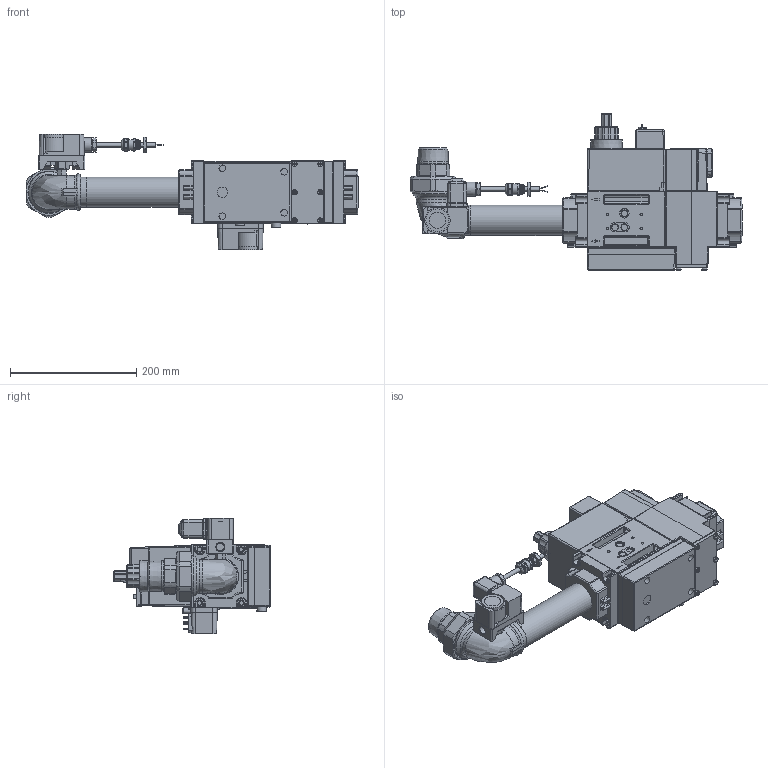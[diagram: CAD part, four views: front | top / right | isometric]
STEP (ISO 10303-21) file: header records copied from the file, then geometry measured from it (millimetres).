
FILE_DESCRIPTION (( 'STEP AP214' ), '1' );
FILE_NAME ('19990749.STEP', '2025-02-14T07:06:25', ( '' ), ( '' ), 'SwSTEP 2.0', 'SolidWorks 2021', '' );
FILE_SCHEMA (( 'AUTOMOTIVE_DESIGN' ));
Length unit declared in the file: millimetre
Products named in the file (1): 19990749
Bounding box: 526.65 x 248 x 183.4 mm (x, y, z)
Surface area: 498542.3 mm2 (no closed solid volume)
Topology: 0 solids, 18 shells, 2607 faces, 6567 edges, 4118 vertices
Faces by surface type: plane 1096, cylinder 716, bspline 471, cone 154, torus 127, sphere 43
Full cylindrical faces by diameter (mm): 0.7 x2, 1 x2, 1.2 x1, 1.5 x2, 1.95 x1, 2 x5, 2.45 x1, 2.5 x7, 3.7 x3, 4 x5, 4.5 x2, 4.8 x1, 6.2 x1, 6.647 x4, 6.75 x2, 6.917 x8, 7 x3, 8 x6, 8.08 x1, 8.5 x10, 8.57 x1, 8.8 x1, 9 x3, 9.139 x1, 9.73 x1, 10 x10, 10.6 x1, 10.96 x2, 11 x7, 12.5 x2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
Entity records: 155466 total; most frequent: CARTESIAN_POINT 72158, ORIENTED_EDGE 12168, DIRECTION 8907, EDGE_CURVE 6086, VERTEX_POINT 3996, EDGE_LOOP 3140, AXIS2_PLACEMENT_3D 3076, FACE_OUTER_BOUND 2779
